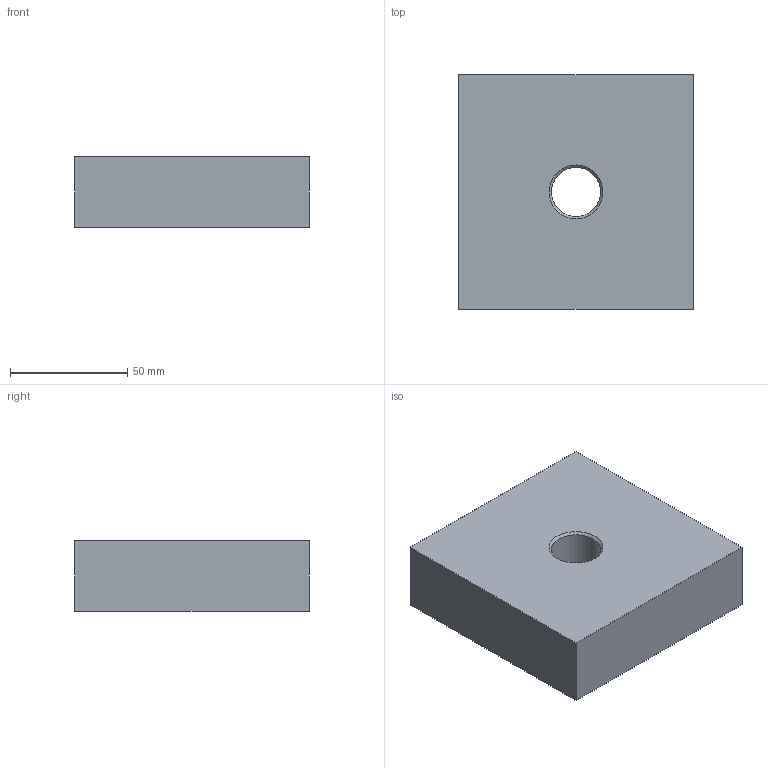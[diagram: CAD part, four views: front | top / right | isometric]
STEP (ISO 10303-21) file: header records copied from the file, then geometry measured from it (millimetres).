
FILE_DESCRIPTION(('Open CASCADE Model'),'2;1');
FILE_NAME('Open CASCADE Shape Model','2026-10-21T16:53:51',('Author'),( 'Open CASCADE'),'Open CASCADE STEP processor 7.9','Open CASCADE 7.9' ,'Unknown');
FILE_SCHEMA(('AUTOMOTIVE_DESIGN { 1 0 10303 214 1 1 1 1 }'));
Length unit declared in the file: millimetre
Products named in the file (1): Open CASCADE STEP translator 7.9 8
Bounding box: 100 x 100 x 30 mm (x, y, z)
Volume: 288529.2 mm3; surface area: 33659.3 mm2
Topology: 1 solids, 1 shells, 16 faces, 29 edges, 19 vertices
Faces by surface type: plane 10, cylinder 5, cone 1
Full cylindrical faces by diameter (mm): 10.2 x4, 21 x1
Entity records: 802 total; most frequent: CARTESIAN_POINT 153, DIRECTION 127, LINE 66, VECTOR 66, ORIENTED_EDGE 58, PCURVE 58, DEFINITIONAL_REPRESENTATION 58, EDGE_CURVE 29
